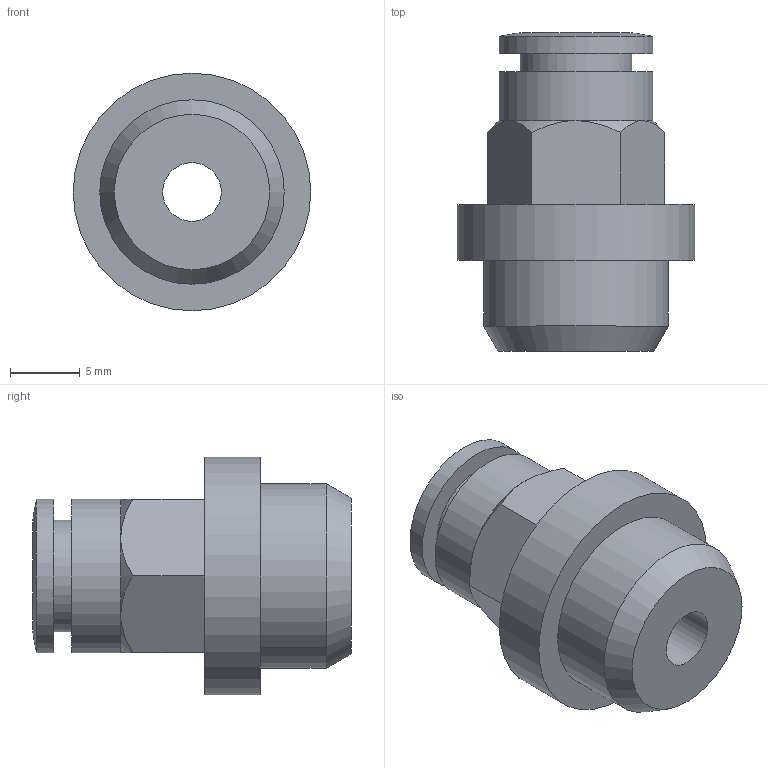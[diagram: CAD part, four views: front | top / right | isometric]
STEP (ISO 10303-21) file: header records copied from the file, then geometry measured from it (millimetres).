
FILE_DESCRIPTION((''),'2;1');
FILE_NAME('C:\Documents and Settings\rivolro1\Documenti\copia di Raccordi\T01XXXX\T010614.stp','2007-10-30T15:14:05',('Rivolro1'),(''),'Autodesk Inventor 2008','Autodesk Inventor 2008','');
FILE_SCHEMA(('AUTOMOTIVE_DESIGN { 1 0 10303 214 1 1 1 1 }'));
Length unit declared in the file: millimetre
Products named in the file (1): T010614
Bounding box: 17 x 22.8 x 17 mm (x, y, z)
Volume: 2322.7 mm3; surface area: 1792.1 mm2
Topology: 1 solids, 1 shells, 28 faces, 55 edges, 34 vertices
Faces by surface type: plane 13, cone 8, cylinder 6, bspline 1
Full cylindrical faces by diameter (mm): 6.2 x1, 8 x1, 11 x2, 13.2 x1, 17 x1
Entity records: 709 total; most frequent: CARTESIAN_POINT 148, DIRECTION 110, ORIENTED_EDGE 90, AXIS2_PLACEMENT_3D 49, EDGE_CURVE 45, EDGE_LOOP 44, VERTEX_POINT 33, FACE_OUTER_BOUND 28
